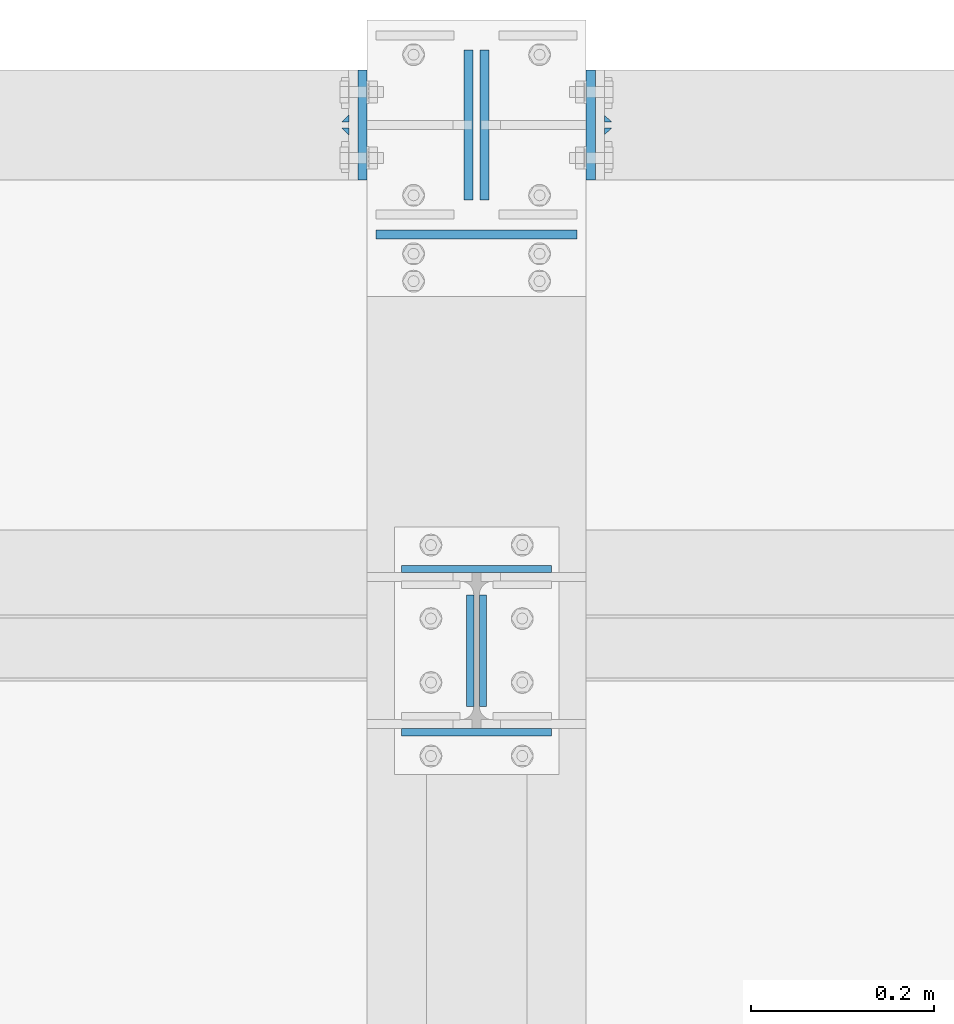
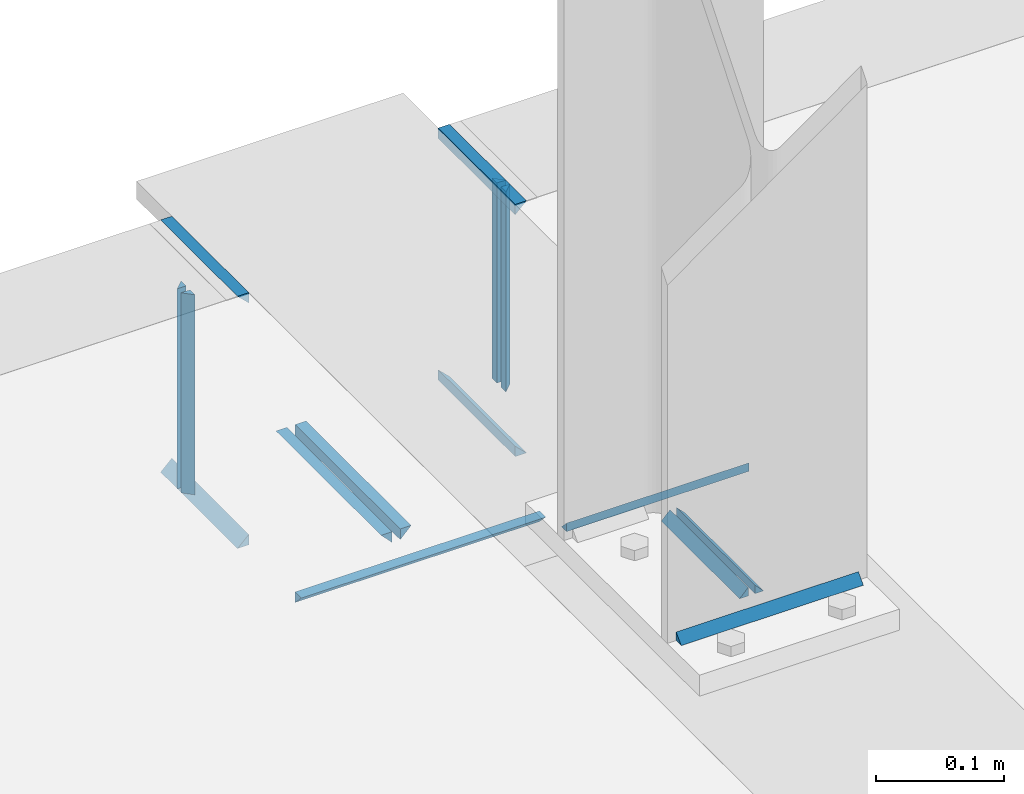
# One storey, part 18 of 66: 26 fasteners.
"""IFC4 building model written with IfcOpenShell, lengths in metres."""

from ifc_helpers import new_model, si_unit, frame, origin_with_axes, place, context, project, spatial, polyline, outline, extrude, type_object, element, save


model = new_model("IFC4")

# Units and contexts
model_context = context("Model", 3, precision=1e-05, world=origin_with_axes())
ifc_project = project(units=[si_unit("LENGTHUNIT", "METRE"), si_unit("AREAUNIT", "SQUARE_METRE"), si_unit("VOLUMEUNIT", "CUBIC_METRE"), si_unit("MASSUNIT", "GRAM", prefix="KILO"), si_unit("TIMEUNIT", "SECOND"), si_unit("PLANEANGLEUNIT", "RADIAN"), si_unit("SOLIDANGLEUNIT", "STERADIAN"), si_unit("THERMODYNAMICTEMPERATUREUNIT", "DEGREE_CELSIUS")], contexts=[model_context])

# Site, building, storey
placement_1 = place(None, origin_with_axes())
site = spatial("IfcSite", under=ifc_project, at=placement_1, Name="Italia", CompositionType="ELEMENT")
building = spatial("IfcBuilding", under=site, at=placement_1, Name="Uffici", CompositionType="ELEMENT")
storey_placement = place(None, frame((0.0, 0.0, 3.299999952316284), z_axis=(0.0, 0.0, 1.0), x_axis=(1.0, 0.0, 0.0)))
storey = spatial("IfcBuildingStorey", under=building, at=storey_placement, Name="Storey 1", CompositionType="ELEMENT", Elevation=3.299999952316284)

# Fasteners
fastener_type_1 = type_object("IfcFastenerType", Name="Collegamento 0108_0208", PredefinedType="WELD")
placement_2 = place(placement_1, origin_with_axes())
fastener_1_placement = place(placement_2, origin_with_axes())
element("IfcFastener", 1, at=fastener_1_placement, inside=storey, type_object=fastener_type_1, Name="Collegamento 0108_0208", context=model_context, shape_type="SweptSolid", body=[
    extrude(outline(polyline([(0.0, 0.0), (0.00792837, 0.00817347), (0.00792837, 0.0), (0.0, 0.0)])), frame((6.83705, 4.90788, 3.31995), z_axis=(-1.0, 0.0, 0.0), x_axis=(0.0, -1.0, 0.0)), (0.0, 0.0, 1.0), 0.164101),
])
fastener_type_2 = type_object("IfcFastenerType", Name="Collegamento 0108_0208", PredefinedType="WELD")
fastener_2_placement = place(placement_2, origin_with_axes())
element("IfcFastener", 2, at=fastener_2_placement, inside=storey, type_object=fastener_type_2, Name="Collegamento 0108_0208", context=model_context, shape_type="SweptSolid", body=[
    extrude(outline(polyline([(0.0, 0.0), (0.00792837, 0.00817347), (0.00792837, 0.0), (0.0, 0.0)])), frame((6.67295, 4.72112, 3.31995), z_axis=(1.0, 0.0, 0.0), x_axis=(0.0, 1.0, 0.0)), (0.0, 0.0, 1.0), 0.164101),
])
fastener_type_3 = type_object("IfcFastenerType", Name="Collegamento 0108_0208", PredefinedType="WELD")
fastener_3_placement = place(placement_2, origin_with_axes())
element("IfcFastener", 3, at=fastener_3_placement, inside=storey, type_object=fastener_type_3, Name="Collegamento 0108_0208", context=model_context, shape_type="SweptSolid", body=[
    extrude(outline(polyline([(0.0, 0.0), (0.00792837, 0.00817347), (0.00792837, 0.0), (0.0, 0.0)])), frame((6.76588, 4.75345, 3.31995), z_axis=(0.0, 1.0, 0.0), x_axis=(-1.0, 0.0, 0.0)), (0.0, 0.0, 1.0), 0.122101),
])
fastener_type_4 = type_object("IfcFastenerType", Name="Collegamento 0108_0208", PredefinedType="WELD")
fastener_4_placement = place(placement_2, origin_with_axes())
element("IfcFastener", 4, at=fastener_4_placement, inside=storey, type_object=fastener_type_4, Name="Collegamento 0108_0208", context=model_context, shape_type="SweptSolid", body=[
    extrude(outline(polyline([(0.0, 0.0), (0.00792837, 0.00817347), (0.00792837, 0.0), (0.0, 0.0)])), frame((6.74412, 4.87555, 3.31995), z_axis=(0.0, -1.0, 0.0), x_axis=(1.0, 0.0, 0.0)), (0.0, 0.0, 1.0), 0.122101),
])
fastener_type_5 = type_object("IfcFastenerType", Name="Collegamento 0108_0208", PredefinedType="WELD")
fastener_5_placement = place(placement_2, origin_with_axes())
element("IfcFastener", 5, at=fastener_5_placement, inside=storey, type_object=fastener_type_5, Name="Collegamento 0108_0208", context=model_context, shape_type="SweptSolid", body=[
    extrude(outline(polyline([(0.0, 0.0), (0.00792837, 0.00817347), (0.00792837, 0.0), (0.0, 0.0)])), frame((6.83705, 4.90788, 3.31995), z_axis=(-1.0, 0.0, 0.0), x_axis=(0.0, -1.0, 0.0)), (0.0, 0.0, 1.0), 0.164101),
])
fastener_type_6 = type_object("IfcFastenerType", Name="Collegamento 0108_0208", PredefinedType="WELD")
fastener_6_placement = place(placement_2, origin_with_axes())
element("IfcFastener", 6, at=fastener_6_placement, inside=storey, type_object=fastener_type_6, Name="Collegamento 0108_0208", context=model_context, shape_type="SweptSolid", body=[
    extrude(outline(polyline([(0.0, 0.0), (0.00792837, 0.00817347), (0.00792837, 0.0), (0.0, 0.0)])), frame((6.67295, 4.72112, 3.31995), z_axis=(1.0, 0.0, 0.0), x_axis=(0.0, 1.0, 0.0)), (0.0, 0.0, 1.0), 0.164101),
])
fastener_type_7 = type_object("IfcFastenerType", Name="Collegamento 0108_0208", PredefinedType="WELD")
fastener_7_placement = place(placement_2, origin_with_axes())
element("IfcFastener", 7, at=fastener_7_placement, inside=storey, type_object=fastener_type_7, Name="Collegamento 0108_0208", context=model_context, shape_type="SweptSolid", body=[
    extrude(outline(polyline([(0.0, 0.0), (0.00792837, 0.00817347), (0.00792837, 0.0), (0.0, 0.0)])), frame((6.76588, 4.75345, 3.31995), z_axis=(0.0, 1.0, 0.0), x_axis=(-1.0, 0.0, 0.0)), (0.0, 0.0, 1.0), 0.122101),
])
fastener_type_8 = type_object("IfcFastenerType", Name="Collegamento 0108_0208", PredefinedType="WELD")
fastener_8_placement = place(placement_2, origin_with_axes())
element("IfcFastener", 8, at=fastener_8_placement, inside=storey, type_object=fastener_type_8, Name="Collegamento 0108_0208", context=model_context, shape_type="SweptSolid", body=[
    extrude(outline(polyline([(0.0, 0.0), (0.00792837, 0.00817347), (0.00792837, 0.0), (0.0, 0.0)])), frame((6.74412, 4.87555, 3.31995), z_axis=(0.0, -1.0, 0.0), x_axis=(1.0, 0.0, 0.0)), (0.0, 0.0, 1.0), 0.122101),
])
fastener_type_9 = type_object("IfcFastenerType", Name="Collegamenti 0111_0011 0112_0012 0113_0013 0114_0014 0115_0015", PredefinedType="WELD")
fastener_9_placement = place(placement_2, origin_with_axes())
element("IfcFastener", 9, at=fastener_9_placement, inside=storey, type_object=fastener_type_9, Name="Collegamenti 0111_0011 0112_0012 0113_0013 0114_0014 0115_0015", context=model_context, shape_type="SweptSolid", body=[
    extrude(outline(polyline([(0.0, 0.0), (-0.00986814, -0.0101733), (-0.00986814, 0.0), (0.0, 0.0)])), frame((6.86505, 5.26518, 3.04505), z_axis=(-1.0, 0.0, 0.0), x_axis=(0.0, -1.0, 0.0)), (0.0, 0.0, 1.0), 0.2201),
])
fastener_type_10 = type_object("IfcFastenerType", Name="Collegamenti 0111_0011 0112_0012 0113_0013 0114_0014 0115_0015", PredefinedType="WELD")
fastener_10_placement = place(placement_2, origin_with_axes())
element("IfcFastener", 10, at=fastener_10_placement, inside=storey, type_object=fastener_type_10, Name="Collegamenti 0111_0011 0112_0012 0113_0013 0114_0014 0115_0015", context=model_context, shape_type="SweptSolid", body=[
    extrude(outline(polyline([(0.0, 0.0), (-0.00986814, -0.0101733), (-0.00986814, 0.0), (0.0, 0.0)])), frame((6.76857, 5.47205, 3.04505), z_axis=(0.0, -1.0, 0.0), x_axis=(1.0, 0.0, 0.0)), (0.0, 0.0, 1.0), 0.164101),
])
fastener_type_11 = type_object("IfcFastenerType", Name="Collegamenti 0111_0011 0112_0012 0113_0013 0114_0014 0115_0015", PredefinedType="WELD")
fastener_11_placement = place(placement_2, origin_with_axes())
element("IfcFastener", 11, at=fastener_11_placement, inside=storey, type_object=fastener_type_11, Name="Collegamenti 0111_0011 0112_0012 0113_0013 0114_0014 0115_0015", context=model_context, shape_type="SweptSolid", body=[
    extrude(outline(polyline([(0.0, 0.0), (-0.00986814, -0.0101733), (-0.00986814, 0.0), (0.0, 0.0)])), frame((6.74143, 5.30795, 3.04505), z_axis=(0.0, 1.0, 0.0), x_axis=(-1.0, 0.0, 0.0)), (0.0, 0.0, 1.0), 0.164101),
])
fastener_type_12 = type_object("IfcFastenerType", Name="Collegamenti 0111_0011 0112_0012 0113_0013 0114_0014 0115_0015", PredefinedType="WELD")
fastener_12_placement = place(placement_2, origin_with_axes())
element("IfcFastener", 12, at=fastener_12_placement, inside=storey, type_object=fastener_type_12, Name="Collegamenti 0111_0011 0112_0012 0113_0013 0114_0014 0115_0015", context=model_context, shape_type="SweptSolid", body=[
    extrude(outline(polyline([(0.0, 0.0), (-0.00986814, -0.0101733), (-0.00986814, 0.0), (0.0, 0.0)])), frame((6.86505, 5.26518, 3.04505), z_axis=(-1.0, 0.0, 0.0), x_axis=(0.0, -1.0, 0.0)), (0.0, 0.0, 1.0), 0.2201),
])
fastener_type_13 = type_object("IfcFastenerType", Name="Collegamenti 0111_0011 0112_0012 0113_0013 0114_0014 0115_0015", PredefinedType="WELD")
fastener_13_placement = place(placement_2, origin_with_axes())
element("IfcFastener", 13, at=fastener_13_placement, inside=storey, type_object=fastener_type_13, Name="Collegamenti 0111_0011 0112_0012 0113_0013 0114_0014 0115_0015", context=model_context, shape_type="SweptSolid", body=[
    extrude(outline(polyline([(0.0, 0.0), (-0.00986814, -0.0101733), (-0.00986814, 0.0), (0.0, 0.0)])), frame((6.76857, 5.47205, 3.04505), z_axis=(0.0, -1.0, 0.0), x_axis=(1.0, 0.0, 0.0)), (0.0, 0.0, 1.0), 0.164101),
])
fastener_type_14 = type_object("IfcFastenerType", Name="Collegamenti 0111_0011 0112_0012 0113_0013 0114_0014 0115_0015", PredefinedType="WELD")
fastener_14_placement = place(placement_2, origin_with_axes())
element("IfcFastener", 14, at=fastener_14_placement, inside=storey, type_object=fastener_type_14, Name="Collegamenti 0111_0011 0112_0012 0113_0013 0114_0014 0115_0015", context=model_context, shape_type="SweptSolid", body=[
    extrude(outline(polyline([(0.0, 0.0), (-0.00986814, -0.0101733), (-0.00986814, 0.0), (0.0, 0.0)])), frame((6.74143, 5.30795, 3.04505), z_axis=(0.0, 1.0, 0.0), x_axis=(-1.0, 0.0, 0.0)), (0.0, 0.0, 1.0), 0.164101),
])
fastener_type_15 = type_object("IfcFastenerType", Name="Collegamento 0113_0112", PredefinedType="WELD")
fastener_15_placement = place(placement_2, origin_with_axes())
element("IfcFastener", 15, at=fastener_15_placement, inside=storey, type_object=fastener_type_15, Name="Collegamento 0113_0112", context=model_context, shape_type="SweptSolid", body=[
    extrude(outline(polyline([(0.0, 0.0), (0.00792837, 0.00817347), (0.00792837, 0.0), (0.0, 0.0)])), frame((6.61505, 5.37902, 3.08475), z_axis=(0.0, 0.0, 1.0), x_axis=(0.0, 1.0, 0.0)), (0.0, 0.0, 1.0), 0.1905),
])
fastener_type_16 = type_object("IfcFastenerType", Name="Collegamento 0113_0112", PredefinedType="WELD")
fastener_16_placement = place(placement_2, origin_with_axes())
element("IfcFastener", 16, at=fastener_16_placement, inside=storey, type_object=fastener_type_16, Name="Collegamento 0113_0112", context=model_context, shape_type="SweptSolid", body=[
    extrude(outline(polyline([(0.0, 0.0), (-0.00792837, -0.00817347), (-0.00792837, 0.0), (0.0, 0.0)])), frame((6.61505, 5.40098, 3.27525), z_axis=(0.0, 0.0, -1.0), x_axis=(0.0, 1.0, 0.0)), (0.0, 0.0, 1.0), 0.1905),
])
fastener_type_17 = type_object("IfcFastenerType", Name="Collegamento 0113_0112", PredefinedType="WELD")
fastener_17_placement = place(placement_2, origin_with_axes())
element("IfcFastener", 17, at=fastener_17_placement, inside=storey, type_object=fastener_type_17, Name="Collegamento 0113_0112", context=model_context, shape_type="SweptSolid", body=[
    extrude(outline(polyline([(0.0, 0.0), (0.00792837, 0.00817347), (0.00792837, 0.0), (0.0, 0.0)])), frame((6.61505, 5.37902, 3.08475), z_axis=(0.0, 0.0, 1.0), x_axis=(0.0, 1.0, 0.0)), (0.0, 0.0, 1.0), 0.1905),
])
fastener_type_18 = type_object("IfcFastenerType", Name="Collegamento 0113_0112", PredefinedType="WELD")
fastener_18_placement = place(placement_2, origin_with_axes())
element("IfcFastener", 18, at=fastener_18_placement, inside=storey, type_object=fastener_type_18, Name="Collegamento 0113_0112", context=model_context, shape_type="SweptSolid", body=[
    extrude(outline(polyline([(0.0, 0.0), (-0.00792837, -0.00817347), (-0.00792837, 0.0), (0.0, 0.0)])), frame((6.61505, 5.40098, 3.27525), z_axis=(0.0, 0.0, -1.0), x_axis=(0.0, 1.0, 0.0)), (0.0, 0.0, 1.0), 0.1905),
])
fastener_type_19 = type_object("IfcFastenerType", Name="Collegamento 0113_0112", PredefinedType="WELD")
fastener_19_placement = place(placement_2, origin_with_axes())
element("IfcFastener", 19, at=fastener_19_placement, inside=storey, type_object=fastener_type_19, Name="Collegamento 0113_0112", context=model_context, shape_type="SweptSolid", body=[
    extrude(outline(polyline([(0.0, 0.0), (0.0101733, -0.00986814), (0.0, -0.00986814), (0.0, 0.0)])), frame((6.63505, 5.32995, 3.06982), z_axis=(0.0, 1.0, 0.0), x_axis=(-1.0, 0.0, 0.0)), (0.0, 0.0, 1.0), 0.1201),
])
fastener_type_20 = type_object("IfcFastenerType", Name="Collegamento 0113_0112", PredefinedType="WELD")
fastener_20_placement = place(placement_2, origin_with_axes())
element("IfcFastener", 20, at=fastener_20_placement, inside=storey, type_object=fastener_type_20, Name="Collegamento 0113_0112", context=model_context, shape_type="SweptSolid", body=[
    extrude(outline(polyline([(0.0, 0.0), (-0.0101733, 0.00986814), (0.0, 0.00986814), (0.0, 0.0)])), frame((6.63505, 5.45005, 3.29018), z_axis=(0.0, -1.0, 0.0), x_axis=(1.0, 0.0, 0.0)), (0.0, 0.0, 1.0), 0.1201),
])
fastener_type_21 = type_object("IfcFastenerType", Name="Collegamento 0113_0114", PredefinedType="WELD")
fastener_21_placement = place(placement_2, origin_with_axes())
element("IfcFastener", 21, at=fastener_21_placement, inside=storey, type_object=fastener_type_21, Name="Collegamento 0113_0114", context=model_context, shape_type="SweptSolid", body=[
    extrude(outline(polyline([(0.0, 0.0), (0.00792837, 0.00817347), (0.00792837, 0.0), (0.0, 0.0)])), frame((6.89495, 5.37902, 3.27525), z_axis=(0.0, 0.0, -1.0), x_axis=(0.0, 1.0, 0.0)), (0.0, 0.0, 1.0), 0.1905),
])
fastener_type_22 = type_object("IfcFastenerType", Name="Collegamento 0113_0114", PredefinedType="WELD")
fastener_22_placement = place(placement_2, origin_with_axes())
element("IfcFastener", 22, at=fastener_22_placement, inside=storey, type_object=fastener_type_22, Name="Collegamento 0113_0114", context=model_context, shape_type="SweptSolid", body=[
    extrude(outline(polyline([(0.0, 0.0), (-0.00792837, -0.00817347), (-0.00792837, 0.0), (0.0, 0.0)])), frame((6.89495, 5.40098, 3.08475), z_axis=(0.0, 0.0, 1.0), x_axis=(0.0, 1.0, 0.0)), (0.0, 0.0, 1.0), 0.1905),
])
fastener_type_23 = type_object("IfcFastenerType", Name="Collegamento 0113_0114", PredefinedType="WELD")
fastener_23_placement = place(placement_2, origin_with_axes())
element("IfcFastener", 23, at=fastener_23_placement, inside=storey, type_object=fastener_type_23, Name="Collegamento 0113_0114", context=model_context, shape_type="SweptSolid", body=[
    extrude(outline(polyline([(0.0, 0.0), (0.00792837, 0.00817347), (0.00792837, 0.0), (0.0, 0.0)])), frame((6.89495, 5.37902, 3.27525), z_axis=(0.0, 0.0, -1.0), x_axis=(0.0, 1.0, 0.0)), (0.0, 0.0, 1.0), 0.1905),
])
fastener_type_24 = type_object("IfcFastenerType", Name="Collegamento 0113_0114", PredefinedType="WELD")
fastener_24_placement = place(placement_2, origin_with_axes())
element("IfcFastener", 24, at=fastener_24_placement, inside=storey, type_object=fastener_type_24, Name="Collegamento 0113_0114", context=model_context, shape_type="SweptSolid", body=[
    extrude(outline(polyline([(0.0, 0.0), (-0.00792837, -0.00817347), (-0.00792837, 0.0), (0.0, 0.0)])), frame((6.89495, 5.40098, 3.08475), z_axis=(0.0, 0.0, 1.0), x_axis=(0.0, 1.0, 0.0)), (0.0, 0.0, 1.0), 0.1905),
])
fastener_type_25 = type_object("IfcFastenerType", Name="Collegamento 0113_0114", PredefinedType="WELD")
fastener_25_placement = place(placement_2, origin_with_axes())
element("IfcFastener", 25, at=fastener_25_placement, inside=storey, type_object=fastener_type_25, Name="Collegamento 0113_0114", context=model_context, shape_type="SweptSolid", body=[
    extrude(outline(polyline([(0.0, 0.0), (0.0101733, -0.00986814), (0.0, -0.00986814), (0.0, 0.0)])), frame((6.87495, 5.45005, 3.06982), z_axis=(0.0, -1.0, 0.0), x_axis=(1.0, 0.0, 0.0)), (0.0, 0.0, 1.0), 0.1201),
])
fastener_type_26 = type_object("IfcFastenerType", Name="Collegamento 0113_0114", PredefinedType="WELD")
fastener_26_placement = place(placement_2, origin_with_axes())
element("IfcFastener", 26, at=fastener_26_placement, inside=storey, type_object=fastener_type_26, Name="Collegamento 0113_0114", context=model_context, shape_type="SweptSolid", body=[
    extrude(outline(polyline([(0.0, 0.0), (-0.0101733, 0.00986814), (0.0, 0.00986814), (0.0, 0.0)])), frame((6.87495, 5.32995, 3.29018), z_axis=(0.0, 1.0, 0.0), x_axis=(-1.0, 0.0, 0.0)), (0.0, 0.0, 1.0), 0.1201),
])

save(model, "model.ifc")
